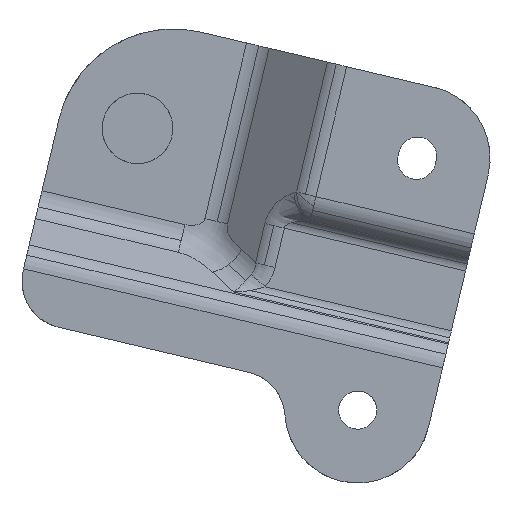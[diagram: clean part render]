
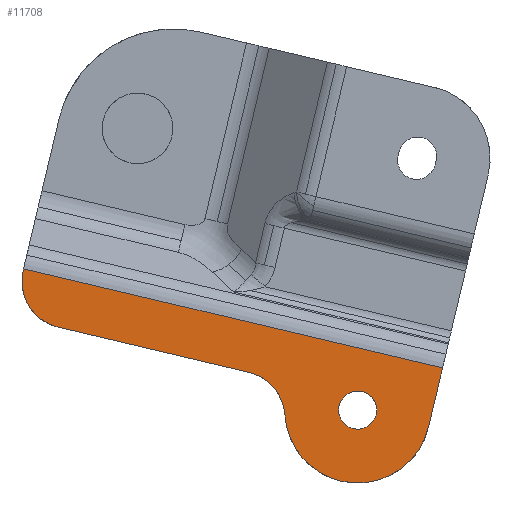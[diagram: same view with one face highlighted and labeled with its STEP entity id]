
A CAD part, front view. The second image highlights one B-rep face of the part: STEP entity #11708.
In plain terms, the highlighted planar face has unit normal (0, -1, 0).
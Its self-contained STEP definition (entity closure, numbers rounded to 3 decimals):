
#11159=CARTESIAN_POINT('Vertex',(-54.298,-498.001,528.252)) ;
#11166=CARTESIAN_POINT('Vertex',(-46.868,-498.001,516.219)) ;
#11169=CARTESIAN_POINT('Axis2P3D Location',(-44.567,-498.001,525.951)) ;
#11186=CARTESIAN_POINT('Line Origine',(-54.254,-498.001,528.438)) ;
#11190=CARTESIAN_POINT('Vertex',(-54.21,-498.001,528.623)) ;
#11345=CARTESIAN_POINT('Vertex',(31.869,-498.001,495.03)) ;
#11500=CARTESIAN_POINT('Vertex',(34.833,-498.001,507.565)) ;
#11503=CARTESIAN_POINT('Line Origine',(33.351,-498.001,501.298)) ;
#11544=CARTESIAN_POINT('Vertex',(13.218,-498.001,483.513)) ;
#11547=CARTESIAN_POINT('Axis2P3D Location',(16.785,-498.001,498.597)) ;
#11568=CARTESIAN_POINT('Vertex',(1.319,-498.001,497.57)) ;
#11571=CARTESIAN_POINT('Axis2P3D Location',(16.785,-498.001,498.597)) ;
#11588=CARTESIAN_POINT('Axis2P3D Location',(-8.659,-498.001,496.908)) ;
#11592=CARTESIAN_POINT('Vertex',(-6.358,-498.001,506.639)) ;
#11612=CARTESIAN_POINT('Line Origine',(-26.613,-498.001,511.429)) ;
#11633=CARTESIAN_POINT('Vertex',(12.735,-498.001,498.597)) ;
#11640=CARTESIAN_POINT('Vertex',(20.835,-498.001,498.597)) ;
#11643=CARTESIAN_POINT('Axis2P3D Location',(16.785,-498.001,498.597)) ;
#11661=CARTESIAN_POINT('Control Point',(20.835,-498.001,498.597)) ;
#11662=CARTESIAN_POINT('Control Point',(20.835,-498.001,497.961)) ;
#11663=CARTESIAN_POINT('Control Point',(20.71,-498.001,497.325)) ;
#11664=CARTESIAN_POINT('Control Point',(20.46,-498.001,496.721)) ;
#11665=CARTESIAN_POINT('Control Point',(19.737,-498.001,495.645)) ;
#11666=CARTESIAN_POINT('Control Point',(18.661,-498.001,494.922)) ;
#11667=CARTESIAN_POINT('Control Point',(18.057,-498.001,494.672)) ;
#11668=CARTESIAN_POINT('Control Point',(16.785,-498.001,494.422)) ;
#11669=CARTESIAN_POINT('Control Point',(15.513,-498.001,494.672)) ;
#11670=CARTESIAN_POINT('Control Point',(14.909,-498.001,494.922)) ;
#11671=CARTESIAN_POINT('Control Point',(13.833,-498.001,495.645)) ;
#11672=CARTESIAN_POINT('Control Point',(13.11,-498.001,496.721)) ;
#11673=CARTESIAN_POINT('Control Point',(12.86,-498.001,497.325)) ;
#11674=CARTESIAN_POINT('Control Point',(12.735,-498.001,497.961)) ;
#11675=CARTESIAN_POINT('Control Point',(12.735,-498.001,498.597)) ;
#11684=CARTESIAN_POINT('Axis2P3D Location',(38.198,-498.001,521.792)) ;
#11689=CARTESIAN_POINT('Line Origine',(-9.689,-498.001,518.094)) ;
#11170=DIRECTION('Axis2P3D Direction',(0.,1.,0.)) ;
#11187=DIRECTION('Vector Direction',(-0.23,0.,-0.973)) ;
#11504=DIRECTION('Vector Direction',(-0.23,0.,-0.973)) ;
#11548=DIRECTION('Axis2P3D Direction',(0.,1.,0.)) ;
#11572=DIRECTION('Axis2P3D Direction',(0.,1.,0.)) ;
#11589=DIRECTION('Axis2P3D Direction',(0.,-1.,0.)) ;
#11613=DIRECTION('Vector Direction',(-0.973,0.,0.23)) ;
#11644=DIRECTION('Axis2P3D Direction',(0.,1.,0.)) ;
#11685=DIRECTION('Axis2P3D Direction',(0.,-1.,0.)) ;
#11686=DIRECTION('Axis2P3D XDirection',(-0.973,0.,0.23)) ;
#11690=DIRECTION('Vector Direction',(-0.973,0.,0.23)) ;
#11171=AXIS2_PLACEMENT_3D('Circle Axis2P3D',#11169,#11170,$) ;
#11549=AXIS2_PLACEMENT_3D('Circle Axis2P3D',#11547,#11548,$) ;
#11573=AXIS2_PLACEMENT_3D('Circle Axis2P3D',#11571,#11572,$) ;
#11590=AXIS2_PLACEMENT_3D('Circle Axis2P3D',#11588,#11589,$) ;
#11645=AXIS2_PLACEMENT_3D('Circle Axis2P3D',#11643,#11644,$) ;
#11687=AXIS2_PLACEMENT_3D('Plane Axis2P3D',#11684,#11685,#11686) ;
#11695=ORIENTED_EDGE('',*,*,#11575,.F.) ;
#11696=ORIENTED_EDGE('',*,*,#11551,.T.) ;
#11697=ORIENTED_EDGE('',*,*,#11507,.F.) ;
#11698=ORIENTED_EDGE('',*,*,#11693,.T.) ;
#11699=ORIENTED_EDGE('',*,*,#11192,.T.) ;
#11700=ORIENTED_EDGE('',*,*,#11173,.T.) ;
#11701=ORIENTED_EDGE('',*,*,#11616,.F.) ;
#11702=ORIENTED_EDGE('',*,*,#11594,.F.) ;
#11705=ORIENTED_EDGE('',*,*,#11676,.T.) ;
#11706=ORIENTED_EDGE('',*,*,#11647,.T.) ;
#11707=FACE_BOUND('',#11704,.T.) ;
#11188=VECTOR('Line Direction',#11187,1.) ;
#11505=VECTOR('Line Direction',#11504,1.) ;
#11614=VECTOR('Line Direction',#11613,1.) ;
#11691=VECTOR('Line Direction',#11690,1.) ;
#11708=ADVANCED_FACE('\X2\51E04F554F53\X0\.4',(#11703,#11707),#11688,.T.) ;
#11660=B_SPLINE_CURVE_WITH_KNOTS('',5,(#11661,#11662,#11663,#11664,#11665,#11666,#11667,#11668,#11669,#11670,#11671,#11672,#11673,#11674,#11675),.UNSPECIFIED.,.F.,.U.,(6,3,3,3,6),(-6.362,-3.181,0.,3.181,6.362),.UNSPECIFIED.) ;
#11172=CIRCLE('generated circle',#11171,10.) ;
#11550=CIRCLE('generated circle',#11549,15.5) ;
#11574=CIRCLE('generated circle',#11573,15.5) ;
#11591=CIRCLE('generated circle',#11590,10.) ;
#11646=CIRCLE('generated circle',#11645,4.05) ;
#11173=EDGE_CURVE('',#11160,#11167,#11172,.F.) ;
#11192=EDGE_CURVE('',#11191,#11160,#11189,.T.) ;
#11507=EDGE_CURVE('',#11501,#11346,#11506,.T.) ;
#11551=EDGE_CURVE('',#11545,#11346,#11550,.F.) ;
#11575=EDGE_CURVE('',#11545,#11569,#11574,.T.) ;
#11594=EDGE_CURVE('',#11569,#11593,#11591,.T.) ;
#11616=EDGE_CURVE('',#11593,#11167,#11615,.T.) ;
#11647=EDGE_CURVE('',#11634,#11641,#11646,.T.) ;
#11676=EDGE_CURVE('',#11641,#11634,#11660,.T.) ;
#11693=EDGE_CURVE('',#11501,#11191,#11692,.T.) ;
#11694=EDGE_LOOP('',(#11695,#11696,#11697,#11698,#11699,#11700,#11701,#11702)) ;
#11704=EDGE_LOOP('',(#11705,#11706)) ;
#11703=FACE_OUTER_BOUND('',#11694,.T.) ;
#11189=LINE('Line',#11186,#11188) ;
#11506=LINE('Line',#11503,#11505) ;
#11615=LINE('Line',#11612,#11614) ;
#11692=LINE('Line',#11689,#11691) ;
#11688=PLANE('Plane',#11687) ;
#11160=VERTEX_POINT('',#11159) ;
#11167=VERTEX_POINT('',#11166) ;
#11191=VERTEX_POINT('',#11190) ;
#11346=VERTEX_POINT('',#11345) ;
#11501=VERTEX_POINT('',#11500) ;
#11545=VERTEX_POINT('',#11544) ;
#11569=VERTEX_POINT('',#11568) ;
#11593=VERTEX_POINT('',#11592) ;
#11634=VERTEX_POINT('',#11633) ;
#11641=VERTEX_POINT('',#11640) ;
